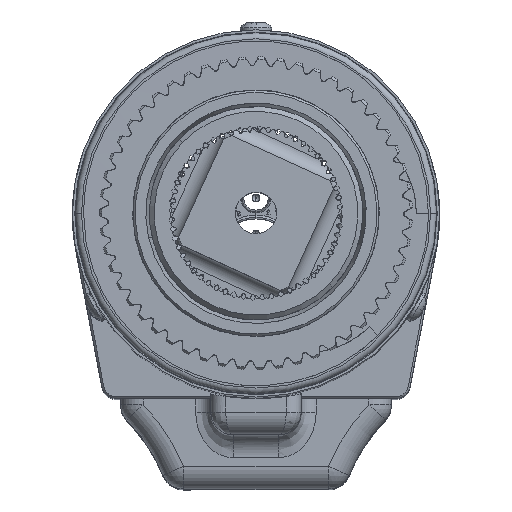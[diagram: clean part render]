
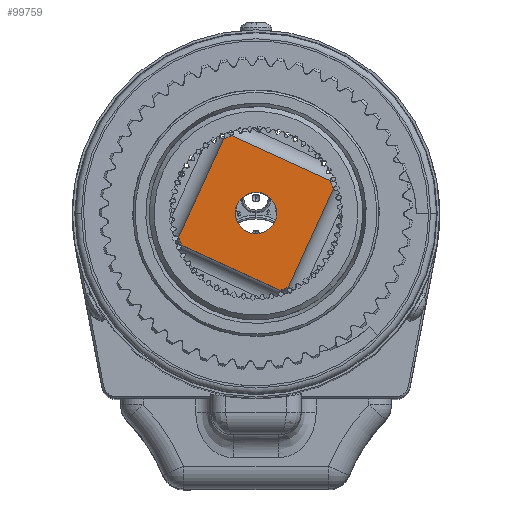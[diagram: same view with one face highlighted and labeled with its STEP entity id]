
A CAD part, top view. The second image highlights one B-rep face of the part: STEP entity #99759.
In plain terms, the highlighted planar face has unit normal (0, 0, 1).
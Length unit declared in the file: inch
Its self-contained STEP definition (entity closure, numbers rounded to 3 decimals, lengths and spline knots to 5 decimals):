
#1945 = CARTESIAN_POINT ( 'NONE',  ( -0.61472, -0.26651, 7.15 ) ) ;
#3758 = AXIS2_PLACEMENT_3D ( 'NONE', #78588, #14993, #89161 ) ;
#7526 = ORIENTED_EDGE ( 'NONE', *, *, #98781, .F. ) ;
#9076 = EDGE_CURVE ( 'NONE', #76744, #109214, #96785, .T. ) ;
#9429 = CIRCLE ( 'NONE', #19061, 0.67 ) ;
#10378 = LINE ( 'NONE', #33947, #22931 ) ;
#10405 = ORIENTED_EDGE ( 'NONE', *, *, #120975, .T. ) ;
#12033 = FACE_BOUND ( 'NONE', #56981, .T. ) ;
#12882 = EDGE_CURVE ( 'NONE', #76893, #18149, #82052, .T. ) ;
#14156 = DIRECTION ( 'NONE',  ( 0.417, 0.909, 0. ) ) ;
#14993 = DIRECTION ( 'NONE',  ( 0., 0., 1. ) ) ;
#18149 = VERTEX_POINT ( 'NONE', #23665 ) ;
#18602 = DIRECTION ( 'NONE',  ( 0., 0., 1. ) ) ;
#19055 = CIRCLE ( 'NONE', #84294, 0.67 ) ;
#19061 = AXIS2_PLACEMENT_3D ( 'NONE', #86316, #22809, #96939 ) ;
#19296 = PLANE ( 'NONE',  #124203 ) ;
#21852 = CARTESIAN_POINT ( 'NONE',  ( 0., 0., 7.15 ) ) ;
#22809 = DIRECTION ( 'NONE',  ( 0., 0., 1. ) ) ;
#22931 = VECTOR ( 'NONE', #65916, 39.37008 ) ;
#23665 = CARTESIAN_POINT ( 'NONE',  ( -0.15623, 0.07165, 7.15 ) ) ;
#25713 = AXIS2_PLACEMENT_3D ( 'NONE', #122828, #59642, #133492 ) ;
#29824 = CARTESIAN_POINT ( 'NONE',  ( 0.61472, 0.26651, 7.15 ) ) ;
#31456 = CARTESIAN_POINT ( 'NONE',  ( -0.63973, -0.1991, 7.15 ) ) ;
#32560 = DIRECTION ( 'NONE',  ( -0.909, 0.417, 0. ) ) ;
#33694 = CIRCLE ( 'NONE', #52645, 0.67 ) ;
#33947 = CARTESIAN_POINT ( 'NONE',  ( -0.20781, -0.45312, 7.15 ) ) ;
#35526 = VERTEX_POINT ( 'NONE', #97709 ) ;
#36747 = VERTEX_POINT ( 'NONE', #72078 ) ;
#39063 = CIRCLE ( 'NONE', #25713, 0.17187 ) ;
#39668 = ORIENTED_EDGE ( 'NONE', *, *, #106601, .T. ) ;
#41287 = EDGE_CURVE ( 'NONE', #82177, #36747, #10378, .T. ) ;
#43092 = ORIENTED_EDGE ( 'NONE', *, *, #118108, .T. ) ;
#49276 = EDGE_CURVE ( 'NONE', #49496, #137087, #120422, .T. ) ;
#49496 = VERTEX_POINT ( 'NONE', #57491 ) ;
#49735 = DIRECTION ( 'NONE',  ( -0.417, -0.909, 0. ) ) ;
#50206 = ORIENTED_EDGE ( 'NONE', *, *, #41287, .T. ) ;
#51045 = EDGE_CURVE ( 'NONE', #137087, #82177, #19055, .T. ) ;
#52645 = AXIS2_PLACEMENT_3D ( 'NONE', #21852, #95958, #32560 ) ;
#52716 = CARTESIAN_POINT ( 'NONE',  ( -0.07165, -0.15623, 7.15 ) ) ;
#54167 = ORIENTED_EDGE ( 'NONE', *, *, #49276, .T. ) ;
#56981 = EDGE_LOOP ( 'NONE', ( #7526, #119214 ) ) ;
#57491 = CARTESIAN_POINT ( 'NONE',  ( -0.26651, 0.61472, 7.15 ) ) ;
#58695 = AXIS2_PLACEMENT_3D ( 'NONE', #82178, #18602, #92728 ) ;
#59642 = DIRECTION ( 'NONE',  ( 0., 0., 1. ) ) ;
#62558 = DIRECTION ( 'NONE',  ( 0., 0., 1. ) ) ;
#63338 = DIRECTION ( 'NONE',  ( 0.909, -0.417, 0. ) ) ;
#65916 = DIRECTION ( 'NONE',  ( 0.909, -0.417, 0. ) ) ;
#72078 = CARTESIAN_POINT ( 'NONE',  ( 0.1991, -0.63973, 7.15 ) ) ;
#72593 = ORIENTED_EDGE ( 'NONE', *, *, #51045, .T. ) ;
#75673 = CARTESIAN_POINT ( 'NONE',  ( 0.20781, 0.45312, 7.15 ) ) ;
#76678 = CARTESIAN_POINT ( 'NONE',  ( 0.45312, -0.20781, 7.15 ) ) ;
#76744 = VERTEX_POINT ( 'NONE', #128449 ) ;
#76893 = VERTEX_POINT ( 'NONE', #89189 ) ;
#77969 = CIRCLE ( 'NONE', #3758, 0.67 ) ;
#78588 = CARTESIAN_POINT ( 'NONE',  ( 0., 0., 7.15 ) ) ;
#82052 = CIRCLE ( 'NONE', #58695, 0.17187 ) ;
#82177 = VERTEX_POINT ( 'NONE', #1945 ) ;
#82178 = CARTESIAN_POINT ( 'NONE',  ( 0., 0., 7.15 ) ) ;
#84294 = AXIS2_PLACEMENT_3D ( 'NONE', #125810, #62558, #136357 ) ;
#86316 = CARTESIAN_POINT ( 'NONE',  ( 0., 0., 7.15 ) ) ;
#89161 = DIRECTION ( 'NONE',  ( -0.909, 0.417, 0. ) ) ;
#89189 = CARTESIAN_POINT ( 'NONE',  ( 0.15623, -0.07165, 7.15 ) ) ;
#91601 = VERTEX_POINT ( 'NONE', #29824 ) ;
#92424 = VECTOR ( 'NONE', #49735, 39.37008 ) ;
#92728 = DIRECTION ( 'NONE',  ( -0.909, 0.417, 0. ) ) ;
#95958 = DIRECTION ( 'NONE',  ( 0., 0., 1. ) ) ;
#96628 = FACE_OUTER_BOUND ( 'NONE', #108400, .T. ) ;
#96785 = LINE ( 'NONE', #76678, #132218 ) ;
#96939 = DIRECTION ( 'NONE',  ( -0.909, 0.417, 0. ) ) ;
#97709 = CARTESIAN_POINT ( 'NONE',  ( -0.1991, 0.63973, 7.15 ) ) ;
#98781 = EDGE_CURVE ( 'NONE', #18149, #76893, #39063, .T. ) ;
#99759 = ADVANCED_FACE ( 'NONE', ( #12033, #96628 ), #19296, .F. ) ;
#101610 = VECTOR ( 'NONE', #128249, 39.37008 ) ;
#102360 = CARTESIAN_POINT ( 'NONE',  ( -0.45312, 0.20781, 7.15 ) ) ;
#103349 = ORIENTED_EDGE ( 'NONE', *, *, #9076, .T. ) ;
#103568 = CARTESIAN_POINT ( 'NONE',  ( 0.63973, 0.1991, 7.15 ) ) ;
#104847 = LINE ( 'NONE', #75673, #101610 ) ;
#106601 = EDGE_CURVE ( 'NONE', #91601, #35526, #104847, .T. ) ;
#108400 = EDGE_LOOP ( 'NONE', ( #111907, #54167, #72593, #50206, #10405, #103349, #43092, #39668 ) ) ;
#109214 = VERTEX_POINT ( 'NONE', #103568 ) ;
#111907 = ORIENTED_EDGE ( 'NONE', *, *, #136734, .T. ) ;
#118108 = EDGE_CURVE ( 'NONE', #109214, #91601, #33694, .T. ) ;
#119214 = ORIENTED_EDGE ( 'NONE', *, *, #12882, .F. ) ;
#120422 = LINE ( 'NONE', #102360, #92424 ) ;
#120975 = EDGE_CURVE ( 'NONE', #36747, #76744, #9429, .T. ) ;
#122828 = CARTESIAN_POINT ( 'NONE',  ( 0., 0., 7.15 ) ) ;
#124203 = AXIS2_PLACEMENT_3D ( 'NONE', #52716, #126596, #63338 ) ;
#125810 = CARTESIAN_POINT ( 'NONE',  ( 0., 0., 7.15 ) ) ;
#126596 = DIRECTION ( 'NONE',  ( 0., 0., -1. ) ) ;
#128249 = DIRECTION ( 'NONE',  ( -0.909, 0.417, 0. ) ) ;
#128449 = CARTESIAN_POINT ( 'NONE',  ( 0.26651, -0.61472, 7.15 ) ) ;
#132218 = VECTOR ( 'NONE', #14156, 39.37008 ) ;
#133492 = DIRECTION ( 'NONE',  ( -0.909, 0.417, 0. ) ) ;
#136357 = DIRECTION ( 'NONE',  ( -0.909, 0.417, 0. ) ) ;
#136734 = EDGE_CURVE ( 'NONE', #35526, #49496, #77969, .T. ) ;
#137087 = VERTEX_POINT ( 'NONE', #31456 ) ;
